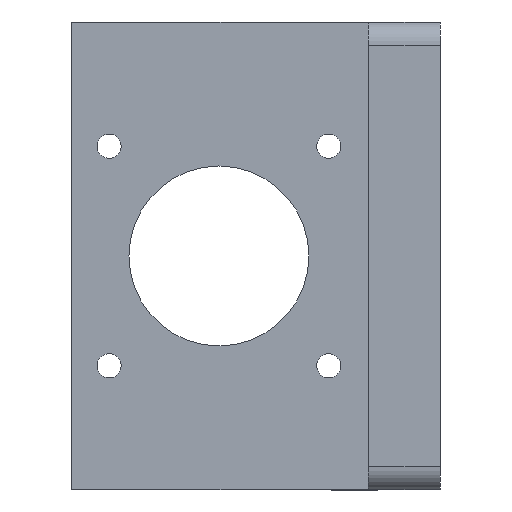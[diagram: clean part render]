
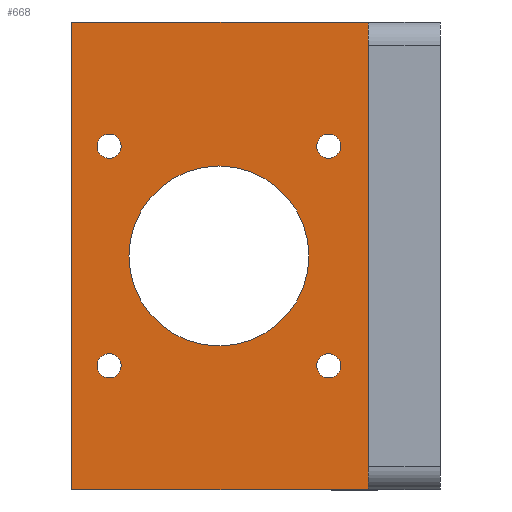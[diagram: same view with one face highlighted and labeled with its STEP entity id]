
A CAD part, left-side view. The second image highlights one B-rep face of the part: STEP entity #668.
In plain terms, the highlighted planar face has unit normal (-1, 0, 0).
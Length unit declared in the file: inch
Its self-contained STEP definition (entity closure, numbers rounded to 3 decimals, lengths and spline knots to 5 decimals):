
#38 = CARTESIAN_POINT ( 'NONE',  ( 7., 1.841, 0.67693 ) ) ;
#60 = EDGE_CURVE ( 'NONE', #1128, #1313, #441, .T. ) ;
#72 = EDGE_CURVE ( 'NONE', #1186, #2182, #684, .T. ) ;
#94 = CIRCLE ( 'NONE', #979, 0.06693 ) ;
#115 = FACE_BOUND ( 'NONE', #1084, .T. ) ;
#140 = AXIS2_PLACEMENT_3D ( 'NONE', #1816, #2331, #1641 ) ;
#168 = DIRECTION ( 'NONE',  ( -1., 0., 0. ) ) ;
#170 = EDGE_CURVE ( 'NONE', #845, #1860, #827, .T. ) ;
#193 = VECTOR ( 'NONE', #2794, 39.37008 ) ;
#198 = ORIENTED_EDGE ( 'NONE', *, *, #2638, .T. ) ;
#250 = CARTESIAN_POINT ( 'NONE',  ( 7., 1.231, 0. ) ) ;
#260 = AXIS2_PLACEMENT_3D ( 'NONE', #1157, #1790, #2957 ) ;
#289 = DIRECTION ( 'NONE',  ( 0., 0., 1. ) ) ;
#301 = VERTEX_POINT ( 'NONE', #639 ) ;
#332 = DIRECTION ( 'NONE',  ( 0., 0., 1. ) ) ;
#345 = CARTESIAN_POINT ( 'NONE',  ( 7., 0.621, -0.54307 ) ) ;
#391 = VERTEX_POINT ( 'NONE', #2710 ) ;
#399 = EDGE_CURVE ( 'NONE', #407, #1345, #2059, .T. ) ;
#400 = DIRECTION ( 'NONE',  ( 0., 0., 1. ) ) ;
#407 = VERTEX_POINT ( 'NONE', #1631 ) ;
#438 = EDGE_CURVE ( 'NONE', #1345, #407, #1769, .T. ) ;
#441 = CIRCLE ( 'NONE', #1935, 0.06693 ) ;
#491 = AXIS2_PLACEMENT_3D ( 'NONE', #1343, #885, #400 ) ;
#494 = VECTOR ( 'NONE', #2221, 39.37008 ) ;
#513 = ORIENTED_EDGE ( 'NONE', *, *, #1839, .F. ) ;
#531 = DIRECTION ( 'NONE',  ( 0., 0., -1. ) ) ;
#539 = VECTOR ( 'NONE', #2595, 39.37008 ) ;
#564 = DIRECTION ( 'NONE',  ( 0., 0., 1. ) ) ;
#586 = ORIENTED_EDGE ( 'NONE', *, *, #1821, .T. ) ;
#627 = ORIENTED_EDGE ( 'NONE', *, *, #72, .F. ) ;
#631 = VERTEX_POINT ( 'NONE', #1908 ) ;
#639 = CARTESIAN_POINT ( 'NONE',  ( 7., 0.4, -1.3 ) ) ;
#668 = ADVANCED_FACE ( 'NONE', ( #115, #1970, #1697, #1048, #821, #1742 ), #1451, .F. ) ;
#684 = CIRCLE ( 'NONE', #491, 0.06693 ) ;
#711 = CARTESIAN_POINT ( 'NONE',  ( 7., 0.621, -0.67693 ) ) ;
#766 = CARTESIAN_POINT ( 'NONE',  ( 7., 2.05, -1.3 ) ) ;
#767 = CARTESIAN_POINT ( 'NONE',  ( 7., 1.841, -0.54307 ) ) ;
#800 = AXIS2_PLACEMENT_3D ( 'NONE', #766, #2608, #531 ) ;
#821 = FACE_BOUND ( 'NONE', #1640, .T. ) ;
#827 = CIRCLE ( 'NONE', #2521, 0.06693 ) ;
#845 = VERTEX_POINT ( 'NONE', #2648 ) ;
#865 = ORIENTED_EDGE ( 'NONE', *, *, #438, .F. ) ;
#885 = DIRECTION ( 'NONE',  ( -1., 0., 0. ) ) ;
#915 = DIRECTION ( 'NONE',  ( 0., 0., 1. ) ) ;
#947 = CARTESIAN_POINT ( 'NONE',  ( 7., 1.841, -0.61 ) ) ;
#978 = EDGE_CURVE ( 'NONE', #631, #2220, #2806, .T. ) ;
#979 = AXIS2_PLACEMENT_3D ( 'NONE', #2874, #1907, #289 ) ;
#994 = CIRCLE ( 'NONE', #2389, 0.5 ) ;
#1048 = FACE_BOUND ( 'NONE', #1409, .T. ) ;
#1084 = EDGE_LOOP ( 'NONE', ( #865, #2850 ) ) ;
#1108 = DIRECTION ( 'NONE',  ( -1., 0., 0. ) ) ;
#1128 = VERTEX_POINT ( 'NONE', #345 ) ;
#1157 = CARTESIAN_POINT ( 'NONE',  ( 7., 1.231, 0. ) ) ;
#1186 = VERTEX_POINT ( 'NONE', #1542 ) ;
#1205 = DIRECTION ( 'NONE',  ( -1., 0., 0. ) ) ;
#1208 = EDGE_LOOP ( 'NONE', ( #586, #2215, #2585, #198 ) ) ;
#1217 = LINE ( 'NONE', #2627, #2434 ) ;
#1224 = LINE ( 'NONE', #1492, #539 ) ;
#1281 = ORIENTED_EDGE ( 'NONE', *, *, #170, .F. ) ;
#1282 = ORIENTED_EDGE ( 'NONE', *, *, #60, .F. ) ;
#1291 = EDGE_CURVE ( 'NONE', #1860, #845, #2426, .T. ) ;
#1313 = VERTEX_POINT ( 'NONE', #711 ) ;
#1343 = CARTESIAN_POINT ( 'NONE',  ( 7., 1.841, 0.61 ) ) ;
#1345 = VERTEX_POINT ( 'NONE', #767 ) ;
#1383 = ORIENTED_EDGE ( 'NONE', *, *, #1647, .F. ) ;
#1390 = DIRECTION ( 'NONE',  ( 0., 0., 1. ) ) ;
#1409 = EDGE_LOOP ( 'NONE', ( #1282, #513 ) ) ;
#1418 = CARTESIAN_POINT ( 'NONE',  ( 7., 0.621, 0.61 ) ) ;
#1451 = PLANE ( 'NONE',  #800 ) ;
#1486 = AXIS2_PLACEMENT_3D ( 'NONE', #947, #2779, #1671 ) ;
#1492 = CARTESIAN_POINT ( 'NONE',  ( 7., 0.4, -1.3 ) ) ;
#1542 = CARTESIAN_POINT ( 'NONE',  ( 7., 1.841, 0.54307 ) ) ;
#1549 = DIRECTION ( 'NONE',  ( -1., 0., 0. ) ) ;
#1571 = DIRECTION ( 'NONE',  ( 0., 0., 1. ) ) ;
#1609 = EDGE_LOOP ( 'NONE', ( #1281, #2235 ) ) ;
#1631 = CARTESIAN_POINT ( 'NONE',  ( 7., 1.841, -0.67693 ) ) ;
#1634 = CARTESIAN_POINT ( 'NONE',  ( 7., 2.05, 1.3 ) ) ;
#1640 = EDGE_LOOP ( 'NONE', ( #2131, #1687 ) ) ;
#1641 = DIRECTION ( 'NONE',  ( 0., 0., 1. ) ) ;
#1647 = EDGE_CURVE ( 'NONE', #2182, #1186, #2086, .T. ) ;
#1666 = CARTESIAN_POINT ( 'NONE',  ( 7., 0.4, 1.3 ) ) ;
#1671 = DIRECTION ( 'NONE',  ( 0., 0., 1. ) ) ;
#1687 = ORIENTED_EDGE ( 'NONE', *, *, #2855, .F. ) ;
#1697 = FACE_BOUND ( 'NONE', #1820, .T. ) ;
#1719 = CARTESIAN_POINT ( 'NONE',  ( 7., 1.231, -0.5 ) ) ;
#1742 = FACE_OUTER_BOUND ( 'NONE', #1208, .T. ) ;
#1769 = CIRCLE ( 'NONE', #1486, 0.06693 ) ;
#1790 = DIRECTION ( 'NONE',  ( -1., 0., 0. ) ) ;
#1816 = CARTESIAN_POINT ( 'NONE',  ( 7., 1.841, 0.61 ) ) ;
#1820 = EDGE_LOOP ( 'NONE', ( #1383, #627 ) ) ;
#1821 = EDGE_CURVE ( 'NONE', #301, #2220, #1224, .T. ) ;
#1828 = CARTESIAN_POINT ( 'NONE',  ( 7., 2.05, -1.3 ) ) ;
#1839 = EDGE_CURVE ( 'NONE', #1313, #1128, #94, .T. ) ;
#1860 = VERTEX_POINT ( 'NONE', #1933 ) ;
#1907 = DIRECTION ( 'NONE',  ( -1., 0., 0. ) ) ;
#1908 = CARTESIAN_POINT ( 'NONE',  ( 7., 2.05, 1.3 ) ) ;
#1913 = EDGE_CURVE ( 'NONE', #2105, #631, #2194, .T. ) ;
#1933 = CARTESIAN_POINT ( 'NONE',  ( 7., 0.621, 0.54307 ) ) ;
#1935 = AXIS2_PLACEMENT_3D ( 'NONE', #2490, #1108, #1571 ) ;
#1957 = DIRECTION ( 'NONE',  ( -1., 0., 0. ) ) ;
#1970 = FACE_BOUND ( 'NONE', #1609, .T. ) ;
#2027 = CARTESIAN_POINT ( 'NONE',  ( 7., 2.05, -1.3 ) ) ;
#2059 = CIRCLE ( 'NONE', #2640, 0.06693 ) ;
#2086 = CIRCLE ( 'NONE', #140, 0.06693 ) ;
#2105 = VERTEX_POINT ( 'NONE', #1828 ) ;
#2131 = ORIENTED_EDGE ( 'NONE', *, *, #2406, .F. ) ;
#2182 = VERTEX_POINT ( 'NONE', #38 ) ;
#2194 = LINE ( 'NONE', #2027, #494 ) ;
#2215 = ORIENTED_EDGE ( 'NONE', *, *, #978, .F. ) ;
#2220 = VERTEX_POINT ( 'NONE', #1666 ) ;
#2221 = DIRECTION ( 'NONE',  ( 0., 0., 1. ) ) ;
#2235 = ORIENTED_EDGE ( 'NONE', *, *, #1291, .F. ) ;
#2331 = DIRECTION ( 'NONE',  ( -1., 0., 0. ) ) ;
#2381 = AXIS2_PLACEMENT_3D ( 'NONE', #1418, #168, #1390 ) ;
#2383 = DIRECTION ( 'NONE',  ( 0., -1., 0. ) ) ;
#2389 = AXIS2_PLACEMENT_3D ( 'NONE', #250, #1205, #332 ) ;
#2406 = EDGE_CURVE ( 'NONE', #391, #2692, #2822, .T. ) ;
#2426 = CIRCLE ( 'NONE', #2381, 0.06693 ) ;
#2434 = VECTOR ( 'NONE', #2383, 39.37008 ) ;
#2486 = CARTESIAN_POINT ( 'NONE',  ( 7., 1.841, -0.61 ) ) ;
#2490 = CARTESIAN_POINT ( 'NONE',  ( 7., 0.621, -0.61 ) ) ;
#2521 = AXIS2_PLACEMENT_3D ( 'NONE', #2862, #1957, #564 ) ;
#2585 = ORIENTED_EDGE ( 'NONE', *, *, #1913, .F. ) ;
#2595 = DIRECTION ( 'NONE',  ( 0., 0., 1. ) ) ;
#2608 = DIRECTION ( 'NONE',  ( 1., 0., 0. ) ) ;
#2627 = CARTESIAN_POINT ( 'NONE',  ( 7., 2.05, -1.3 ) ) ;
#2638 = EDGE_CURVE ( 'NONE', #2105, #301, #1217, .T. ) ;
#2640 = AXIS2_PLACEMENT_3D ( 'NONE', #2486, #1549, #915 ) ;
#2648 = CARTESIAN_POINT ( 'NONE',  ( 7., 0.621, 0.67693 ) ) ;
#2692 = VERTEX_POINT ( 'NONE', #1719 ) ;
#2710 = CARTESIAN_POINT ( 'NONE',  ( 7., 1.231, 0.5 ) ) ;
#2779 = DIRECTION ( 'NONE',  ( -1., 0., 0. ) ) ;
#2794 = DIRECTION ( 'NONE',  ( 0., -1., 0. ) ) ;
#2806 = LINE ( 'NONE', #1634, #193 ) ;
#2822 = CIRCLE ( 'NONE', #260, 0.5 ) ;
#2850 = ORIENTED_EDGE ( 'NONE', *, *, #399, .F. ) ;
#2855 = EDGE_CURVE ( 'NONE', #2692, #391, #994, .T. ) ;
#2862 = CARTESIAN_POINT ( 'NONE',  ( 7., 0.621, 0.61 ) ) ;
#2874 = CARTESIAN_POINT ( 'NONE',  ( 7., 0.621, -0.61 ) ) ;
#2957 = DIRECTION ( 'NONE',  ( 0., 0., 1. ) ) ;
